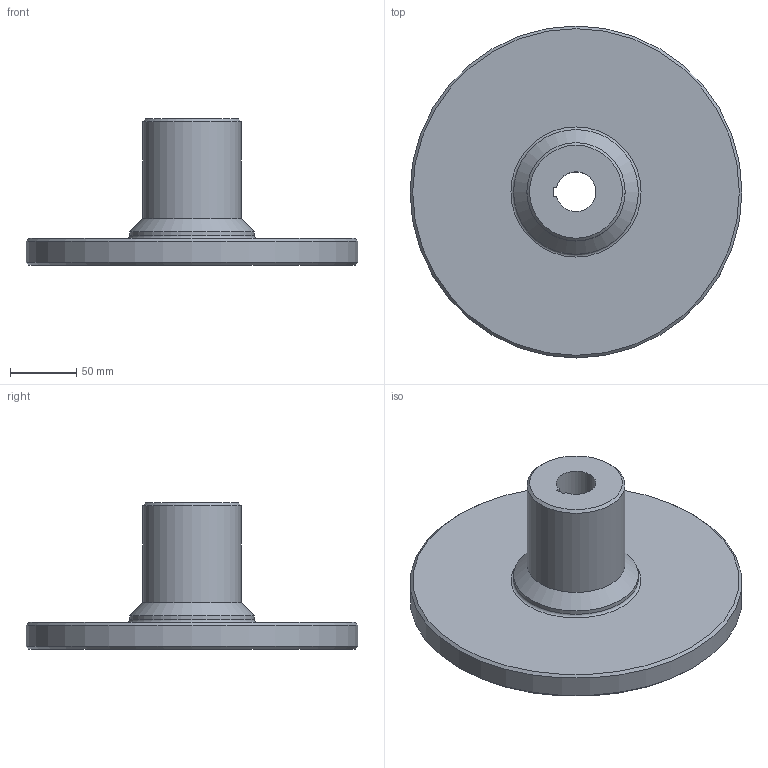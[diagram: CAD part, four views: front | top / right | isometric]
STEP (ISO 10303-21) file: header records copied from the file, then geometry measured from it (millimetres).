
FILE_DESCRIPTION(/* description */ (''),/* implementation_level */ '2;1');
FILE_NAME(/* name */ 'C:\Users\vlakrc01\Desktop\COUPLINGS\04 RKX STEP\RKMWD 20\76547.stp',/* time_stamp */ '2017-03-15T13:27:12+01:00',/* author */ ('vlakrc01'),/* organization */ (''),/* preprocessor_version */ 'ST-DEVELOPER v16.1',/* originating_system */ 'Autodesk Inventor 2016',/* authorisation */ '');
FILE_SCHEMA (('AUTOMOTIVE_DESIGN { 1 0 10303 214 3 1 1 }'));
Length unit declared in the file: millimetre
Products named in the file (1): 76547_Shrinkwrap_1
Bounding box: 250 x 250 x 110 mm (x, y, z)
Volume: 1311726.5 mm3; surface area: 141683.9 mm2
Topology: 1 solids, 3 shells, 25 faces, 55 edges, 35 vertices
Faces by surface type: cone 9, plane 8, cylinder 6, bspline 1, torus 1
Full cylindrical faces by diameter (mm): 70 x2, 74 x1, 94 x1, 250 x1
Entity records: 829 total; most frequent: CARTESIAN_POINT 284, DIRECTION 101, ORIENTED_EDGE 70, EDGE_LOOP 45, AXIS2_PLACEMENT_3D 45, EDGE_CURVE 35, VERTEX_POINT 30, STYLED_ITEM 26
